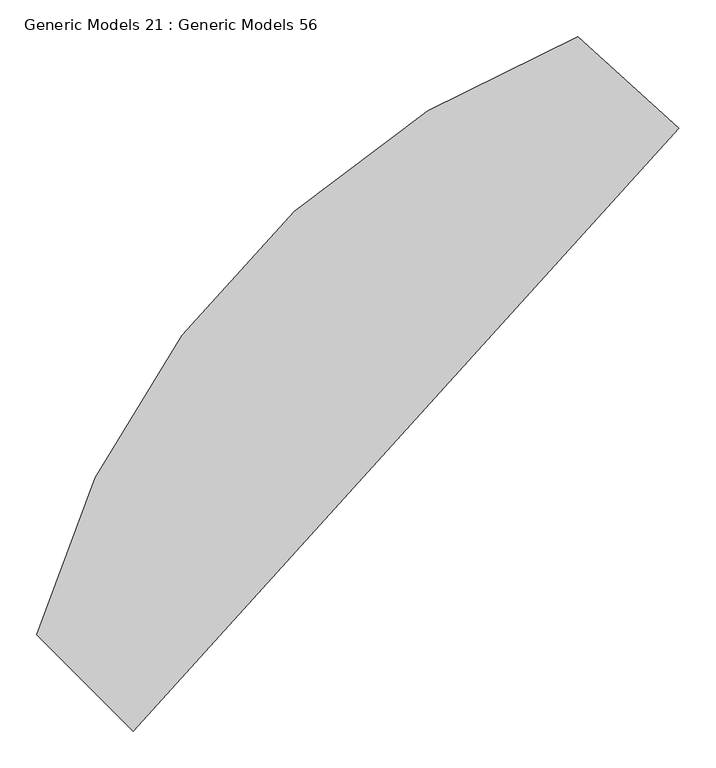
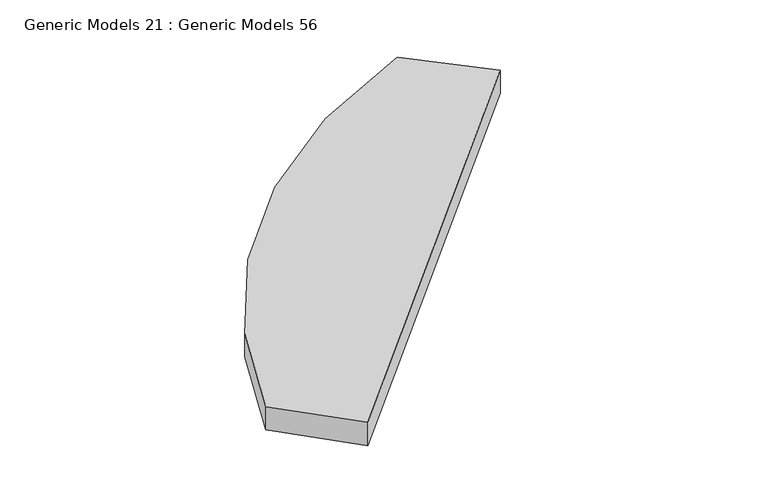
"""IFC4 building model written with IfcOpenShell, lengths in millimetres: proxy geometry, Generic Models 21 : Generic Models 56."""

import ifcopenshell
import ifcopenshell.guid

model = None  # the IFC model being written
_history = None  # IfcOwnerHistory: only IFC2X3 demands one
_inside = {}  # id of a spatial element -> (the spatial element, [elements in it])
_under = {}  # id of a project, library or spatial element -> (it, [spatial elements below it])
_declared = {}  # id of a project -> (the project, [libraries it declares])
_typed = {}  # id of a type object -> (the type object, [elements of that type])
_made_of = {}  # id of a material, layer set ... -> (it, [elements and type objects made of it])


def new_model(schema):
    """Start an empty IFC model of exactly this schema.

    Asked for "IFC4X3", IfcOpenShell would pick the latest addendum, in which some entities
    have other attributes; the version numbers below select the first issue.
    IFC2X3 requires an IfcOwnerHistory on every rooted entity: one is made here for all.
    """
    global model, _history
    if schema == "IFC4X3":
        model = ifcopenshell.file(schema_version=(4, 3, 0, 0))
    else:
        model = ifcopenshell.file(schema=schema)
    _inside.clear()
    _under.clear()
    _declared.clear()
    _typed.clear()
    _made_of.clear()
    _history = None
    if model.schema == "IFC2X3":
        org = make("IfcOrganization", Name="unknown")
        user = make(
            "IfcPersonAndOrganization",
            ThePerson=make("IfcPerson", FamilyName="unknown"),
            TheOrganization=org,
        )
        app = make(
            "IfcApplication",
            ApplicationDeveloper=org,
            Version="unknown",
            ApplicationFullName="unknown",
            ApplicationIdentifier="unknown",
        )
        _history = make(
            "IfcOwnerHistory",
            OwningUser=user,
            OwningApplication=app,
            ChangeAction="ADDED",
            CreationDate=0,
        )
    return model


def make(cls, **values):
    """One entity of the class cls with the attributes given. An attribute that is None is left unset."""
    return model.create_entity(
        cls, **{name: value for name, value in values.items() if value is not None}
    )


def rooted(cls, **values):
    """An entity with a GlobalId (a new one), such as an element, a storey or a relation."""
    return make(cls, GlobalId=ifcopenshell.guid.new(), OwnerHistory=_history, **values)


def si_unit(unit_type, name, prefix=None):
    """IfcSIUnit, for example si_unit("LENGTHUNIT", "METRE", prefix="MILLI")."""
    return make("IfcSIUnit", UnitType=unit_type, Prefix=prefix, Name=name)


def assignment(units):
    """IfcUnitAssignment: the units of a project."""
    return None if units is None else make("IfcUnitAssignment", Units=units)


def point(xyz):
    """IfcCartesianPoint."""
    return None if xyz is None else make("IfcCartesianPoint", Coordinates=xyz)


def direction(xyz):
    """IfcDirection."""
    return None if xyz is None else make("IfcDirection", DirectionRatios=xyz)


def frame(location, z_axis=None, x_axis=None):
    """IfcAxis2Placement3D, a coordinate frame: its origin and axes. An axis left out is left unset."""
    return make(
        "IfcAxis2Placement3D",
        Location=point(location),
        Axis=direction(z_axis),
        RefDirection=direction(x_axis),
    )


def frame_2d(location, x_axis=None):
    """IfcAxis2Placement2D, a coordinate frame in the plane: its origin and x axis."""
    return make(
        "IfcAxis2Placement2D", Location=point(location), RefDirection=direction(x_axis)
    )


def origin():
    """The frame at (0, 0, 0) with its axes left unset."""
    return frame((0.0, 0.0, 0.0))


def place(relative_to, where):
    """IfcLocalPlacement: puts the frame where relative to a parent placement (None: the world)."""
    return make(
        "IfcLocalPlacement", PlacementRelTo=relative_to, RelativePlacement=where
    )


def context(
    kind, dimensions, precision=None, world=None, true_north=None, identifier=None
):
    """IfcGeometricRepresentationContext, for example the 3D "Model" context."""
    return make(
        "IfcGeometricRepresentationContext",
        ContextIdentifier=identifier,
        ContextType=kind,
        CoordinateSpaceDimension=dimensions,
        Precision=precision,
        WorldCoordinateSystem=world,
        TrueNorth=true_north,
    )


def project(units=None, contexts=None):
    """IfcProject with its units and contexts."""
    return rooted(
        "IfcProject",
        Name="project",
        RepresentationContexts=contexts,
        UnitsInContext=assignment(units),
    )


def spatial(cls, under=None, at=None, **own):
    """A site, building, storey or space (cls), placed at a placement, below another one or the project."""
    s = rooted(cls, ObjectPlacement=at, **own)
    if under is not None:
        _under.setdefault(under.id(), (under, []))[1].append(s)
    return s


def polyline(points):
    """IfcPolyline through the points."""
    return make("IfcPolyline", Points=[point(p) for p in points])


def circle_curve(where, radius):
    """IfcCircle in the frame where."""
    return make("IfcCircle", Position=where, Radius=radius)


def trimmed(basis, trim1, trim2, sense, master):
    """IfcTrimmedCurve: the piece of a basis curve between two trims."""
    return make(
        "IfcTrimmedCurve",
        BasisCurve=basis,
        Trim1=trim1,
        Trim2=trim2,
        SenseAgreement=sense,
        MasterRepresentation=master,
    )


def segment(curve, same_sense, transition):
    """IfcCompositeCurveSegment."""
    return make(
        "IfcCompositeCurveSegment",
        Transition=transition,
        SameSense=same_sense,
        ParentCurve=curve,
    )


def composite_curve(segments, self_intersect=None):
    """IfcCompositeCurve: segments joined end to end."""
    return make("IfcCompositeCurve", Segments=segments, SelfIntersect=self_intersect)


def outline(outer, holes=None, kind="AREA"):
    """IfcArbitraryClosedProfileDef: a profile drawn as a closed curve; with holes, ...WithVoids."""
    if holes is None:
        return make("IfcArbitraryClosedProfileDef", ProfileType=kind, OuterCurve=outer)
    return make(
        "IfcArbitraryProfileDefWithVoids",
        ProfileType=kind,
        OuterCurve=outer,
        InnerCurves=holes,
    )


def extrude(swept, where, along, depth):
    """IfcExtrudedAreaSolid: the profile swept, set in the frame where, extruded along a direction by depth."""
    return make(
        "IfcExtrudedAreaSolid",
        SweptArea=swept,
        Position=where,
        ExtrudedDirection=direction(along),
        Depth=depth,
    )


def shape(context_of_items, identifier, shape_type, items):
    """IfcShapeRepresentation: the items that make up one representation, for example the "Body"."""
    return make(
        "IfcShapeRepresentation",
        ContextOfItems=context_of_items,
        RepresentationIdentifier=identifier,
        RepresentationType=shape_type,
        Items=items,
    )


def source(mapping_origin, context_of_items, identifier, shape_type, items):
    """IfcRepresentationMap: a shape defined once, which mapped items show again and again."""
    return make(
        "IfcRepresentationMap",
        MappingOrigin=mapping_origin,
        MappedRepresentation=shape(context_of_items, identifier, shape_type, items),
    )


def transform(
    local_origin,
    x_axis=None,
    y_axis=None,
    z_axis=None,
    scale=None,
    scale2=None,
    scale3=None,
    uniform=True,
):
    """IfcCartesianTransformationOperator3D, or its non-uniform kind. x_axis, y_axis, z_axis: its Axis1, 2, 3."""
    if uniform:
        return make(
            "IfcCartesianTransformationOperator3D",
            Axis1=direction(x_axis),
            Axis2=direction(y_axis),
            LocalOrigin=point(local_origin),
            Scale=scale,
            Axis3=direction(z_axis),
        )
    return make(
        "IfcCartesianTransformationOperator3DnonUniform",
        Axis1=direction(x_axis),
        Axis2=direction(y_axis),
        LocalOrigin=point(local_origin),
        Scale=scale,
        Axis3=direction(z_axis),
        Scale2=scale2,
        Scale3=scale3,
    )


def mapped(mapping_source, mapping_target):
    """IfcMappedItem: shows the shape of a source again, moved by a transform."""
    return make(
        "IfcMappedItem", MappingSource=mapping_source, MappingTarget=mapping_target
    )


def made_of(thing, what):
    """Note that an element or type object is made of a material, layer set ...; save() writes the relation."""
    if what is not None:
        _made_of.setdefault(what.id(), (what, []))[1].append(thing)
    return thing


def element(
    cls,
    number,
    at=None,
    inside=None,
    cuts=None,
    type_object=None,
    material=None,
    context=None,
    identifier="Body",
    shape_type=None,
    held_by="IfcProductDefinitionShape",
    body=None,
    shapes=None,
    **own,
):
    """One element of the class cls, such as IfcWall. Its Tag is "e" and its number.

    at: its placement. inside: the storey or other place that contains it. cuts: it is an
    opening in that element (IfcRelVoidsElement). A single representation is given by context,
    identifier, shape_type and body (its items); several are given by shapes. held_by: the class
    of the entity that holds the representations. save() writes the other relations.
    """
    e = rooted(cls, Tag="e%d" % number, ObjectPlacement=at, **own)
    if body is not None:
        shapes = [shape(context, identifier, shape_type, body)]
    if shapes is not None:
        e.Representation = make(held_by, Representations=shapes)
    if inside is not None:
        _inside.setdefault(inside.id(), (inside, []))[1].append(e)
    if cuts is not None:
        rooted(
            "IfcRelVoidsElement", RelatingBuildingElement=cuts, RelatedOpeningElement=e
        )
    if type_object is not None:
        _typed.setdefault(type_object.id(), (type_object, []))[1].append(e)
    return made_of(e, material)


def aggregate(whole, parts):
    """IfcRelAggregates: a whole, such as a stair, and the parts it consists of."""
    return rooted("IfcRelAggregates", RelatingObject=whole, RelatedObjects=parts)


def save(model, path):
    """Write the relations noted so far, then the file.

    IfcRelAggregates (storeys below a building ...), IfcRelContainedInSpatialStructure (elements
    in a storey), IfcRelDefinesByType, IfcRelAssociatesMaterial and IfcRelDeclares: one each for
    every whole, place, type object, material and project.
    """
    for whole, parts in _under.values():
        aggregate(whole, parts)
    for where, things in _inside.values():
        rooted(
            "IfcRelContainedInSpatialStructure",
            RelatedElements=things,
            RelatingStructure=where,
        )
    for kind, things in _typed.values():
        rooted("IfcRelDefinesByType", RelatedObjects=things, RelatingType=kind)
    for what, things in _made_of.values():
        rooted("IfcRelAssociatesMaterial", RelatedObjects=things, RelatingMaterial=what)
    for by, libraries in _declared.values():
        rooted("IfcRelDeclares", RelatingContext=by, RelatedDefinitions=libraries)
    model.write(path)


def generic_models_21_generic_models_56_b9fb81a7(model_context):
    return source(origin(), model_context, "Body", "SweptSolid", [
        extrude(outline(composite_curve([segment(polyline([(-3924.5642723, 3613.716796), (-3787.0052844, 3489.1608041), (-4528.984102, 2669.7232674), (-4660.3641181, 2801.1032834)]), True, "CONTINUOUS"), segment(trimmed(circle_curve(frame_2d((-3496.5603991, 2486.7403962)), 1205.5136337), [point((-4660.3641181, 2801.1032834))], [point((-3924.5642723, 3613.716796))], False, "CARTESIAN"), True, "CONTINUOUS")], self_intersect=False)), frame((0.0, 0.0, 850.0), z_axis=(0.0, 0.0, 1.0), x_axis=(1.0, 0.0, 0.0)), (0.0, 0.0, 1.0), 50.0),
    ])


if __name__ == "__main__":
    model = new_model("IFC4")
    model_context = context("Model", 3, world=origin())
    ifc_project = project(units=[si_unit("LENGTHUNIT", "METRE", prefix="MILLI")], contexts=[model_context])
    site = spatial("IfcSite", under=ifc_project)
    building = spatial("IfcBuilding", under=site)
    placement = place(None, origin())
    generic_models_21_generic_models_56_shape = generic_models_21_generic_models_56_b9fb81a7(model_context)
    element("IfcBuildingElementProxy", 1, Name="Generic Models 21 : Generic Models 56", ObjectType="Generic Models 21 : Generic Models 56", at=placement, inside=building, context=model_context, shape_type="MappedRepresentation", body=[
        mapped(generic_models_21_generic_models_56_shape, transform((0.0, 0.0, 0.0), x_axis=(1.0, 0.0, 0.0), y_axis=(0.0, 1.0, 0.0), z_axis=(0.0, 0.0, 1.0))),
    ])
    save(model, "model.ifc")
